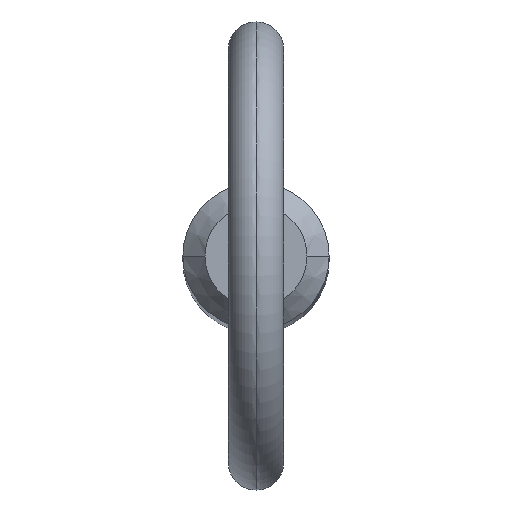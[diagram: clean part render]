
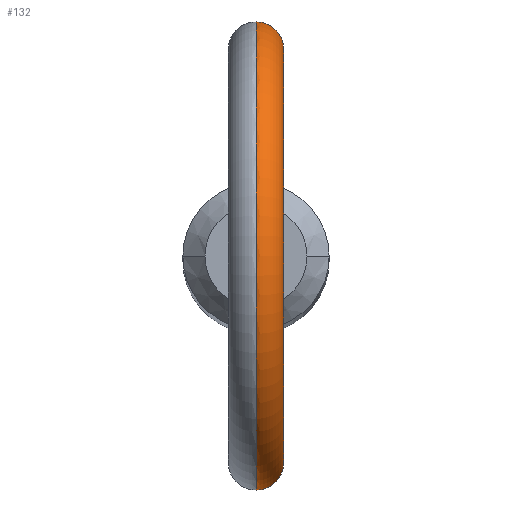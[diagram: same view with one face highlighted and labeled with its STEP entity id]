
A CAD part, top view. The second image highlights one B-rep face of the part: STEP entity #132.
In plain terms, the highlighted toroidal (fillet/blend) face has major radius 11.2 mm and minor radius 1.5 mm.
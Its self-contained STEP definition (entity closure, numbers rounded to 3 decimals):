
#8 = CARTESIAN_POINT ( 'NONE',  ( 0.782, -3.888, 122.737 ) ) ;
#22 = CARTESIAN_POINT ( 'NONE',  ( 0.691, 3.905, 122.689 ) ) ;
#26 = CARTESIAN_POINT ( 'NONE',  ( 1.499, 3.671, 123.894 ) ) ;
#27 = CARTESIAN_POINT ( 'NONE',  ( 0.769, 3.894, 125.501 ) ) ;
#28 = DIRECTION ( 'NONE',  ( 0., 0., -1. ) ) ;
#60 = CIRCLE ( 'NONE', #67, 12.7 ) ;
#64 = CARTESIAN_POINT ( 'NONE',  ( 1.236, 3.77, 123.129 ) ) ;
#65 = CARTESIAN_POINT ( 'NONE',  ( 1.488, 3.675, 124.305 ) ) ;
#67 = AXIS2_PLACEMENT_3D ( 'NONE', #449, #184, #267 ) ;
#68 = CARTESIAN_POINT ( 'NONE',  ( 0.206, 3.965, 125.747 ) ) ;
#84 = CARTESIAN_POINT ( 'NONE',  ( 0.77, -3.894, 125.5 ) ) ;
#85 = AXIS2_PLACEMENT_3D ( 'NONE', #229, #390, #225 ) ;
#87 = CARTESIAN_POINT ( 'NONE',  ( 0.205, -3.965, 122.535 ) ) ;
#89 = ORIENTED_EDGE ( 'NONE', *, *, #98, .T. ) ;
#94 = AXIS2_PLACEMENT_3D ( 'NONE', #422, #263, #28 ) ;
#98 = EDGE_CURVE ( 'NONE', #221, #357, #60, .T. ) ;
#103 = B_SPLINE_CURVE_WITH_KNOTS ( 'NONE', 3,
 ( #180, #500, #499, #22, #420, #299, #377, #64, #455, #335, #143, #26, #339, #65, #338, #105, #222, #264, #27, #301, #68, #462 ),
 .UNSPECIFIED., .F., .F.,
 ( 4, 2, 2, 2, 2, 2, 2, 2, 2, 2, 4 ),
 ( 0.001, 0.001, 0.002, 0.002, 0.003, 0.003, 0.003, 0.004, 0.004, 0.005, 0.006 ),
 .UNSPECIFIED. ) ;
#105 = CARTESIAN_POINT ( 'NONE',  ( 1.291, 3.75, 124.884 ) ) ;
#118 = CARTESIAN_POINT ( 'NONE',  ( 1.503, -3.669, 123.999 ) ) ;
#119 = CARTESIAN_POINT ( 'NONE',  ( 0.498, -3.935, 125.644 ) ) ;
#132 = ADVANCED_FACE ( 'NONE', ( #139 ), #259, .T. ) ;
#139 = FACE_OUTER_BOUND ( 'NONE', #336, .T. ) ;
#143 = CARTESIAN_POINT ( 'NONE',  ( 1.47, 3.682, 123.692 ) ) ;
#159 = CARTESIAN_POINT ( 'NONE',  ( 0.102, -3.965, 125.747 ) ) ;
#180 = CARTESIAN_POINT ( 'NONE',  ( 0., 3.965, 122.535 ) ) ;
#184 = DIRECTION ( 'NONE',  ( 1., 0., 0. ) ) ;
#190 = VERTEX_POINT ( 'NONE', #303 ) ;
#196 = CARTESIAN_POINT ( 'NONE',  ( 0.925, -3.858, 125.368 ) ) ;
#199 = CARTESIAN_POINT ( 'NONE',  ( 1.499, -3.671, 123.897 ) ) ;
#200 = CARTESIAN_POINT ( 'NONE',  ( 0.949, -3.851, 122.849 ) ) ;
#220 = CARTESIAN_POINT ( 'NONE',  ( 0., 3.965, 122.535 ) ) ;
#221 = VERTEX_POINT ( 'NONE', #220 ) ;
#222 = CARTESIAN_POINT ( 'NONE',  ( 1.185, 3.786, 125.06 ) ) ;
#225 = DIRECTION ( 'NONE',  ( 0., 0., -1. ) ) ;
#229 = CARTESIAN_POINT ( 'NONE',  ( 0., 0., 134.6 ) ) ;
#237 = CARTESIAN_POINT ( 'NONE',  ( 1.479, -3.679, 124.307 ) ) ;
#238 = CARTESIAN_POINT ( 'NONE',  ( 0.205, -3.961, 125.734 ) ) ;
#241 = CARTESIAN_POINT ( 'NONE',  ( 1.237, -3.77, 123.131 ) ) ;
#244 = EDGE_CURVE ( 'NONE', #221, #190, #103, .T. ) ;
#259 = TOROIDAL_SURFACE ( 'NONE', #94, 11.2, 1.5 ) ;
#263 = DIRECTION ( 'NONE',  ( 1., 0., 0. ) ) ;
#264 = CARTESIAN_POINT ( 'NONE',  ( 0.927, 3.858, 125.367 ) ) ;
#266 = CIRCLE ( 'NONE', #85, 9.7 ) ;
#267 = DIRECTION ( 'NONE',  ( 0., 0., -1. ) ) ;
#271 = ORIENTED_EDGE ( 'NONE', *, *, #244, .F. ) ;
#276 = CARTESIAN_POINT ( 'NONE',  ( 1.447, -3.692, 123.593 ) ) ;
#278 = CARTESIAN_POINT ( 'NONE',  ( 1.028, -3.83, 122.915 ) ) ;
#279 = CARTESIAN_POINT ( 'NONE',  ( 0.693, -3.905, 122.69 ) ) ;
#281 = VERTEX_POINT ( 'NONE', #507 ) ;
#296 = EDGE_CURVE ( 'NONE', #190, #281, #266, .T. ) ;
#299 = CARTESIAN_POINT ( 'NONE',  ( 0.949, 3.851, 122.849 ) ) ;
#301 = CARTESIAN_POINT ( 'NONE',  ( 0.411, 3.948, 125.691 ) ) ;
#303 = CARTESIAN_POINT ( 'NONE',  ( 0., 3.965, 125.747 ) ) ;
#312 = CARTESIAN_POINT ( 'NONE',  ( 0.404, -3.946, 125.682 ) ) ;
#313 = CARTESIAN_POINT ( 'NONE',  ( 1.186, -3.786, 125.059 ) ) ;
#315 = CARTESIAN_POINT ( 'NONE',  ( 0.409, -3.948, 122.574 ) ) ;
#335 = CARTESIAN_POINT ( 'NONE',  ( 1.447, 3.692, 123.593 ) ) ;
#336 = EDGE_LOOP ( 'NONE', ( #271, #89, #453, #363 ) ) ;
#338 = CARTESIAN_POINT ( 'NONE',  ( 1.441, 3.695, 124.508 ) ) ;
#339 = CARTESIAN_POINT ( 'NONE',  ( 1.503, 3.669, 123.998 ) ) ;
#357 = VERTEX_POINT ( 'NONE', #463 ) ;
#358 = CARTESIAN_POINT ( 'NONE',  ( 1.493, -3.673, 124.204 ) ) ;
#360 = CARTESIAN_POINT ( 'NONE',  ( 1.471, -3.682, 123.694 ) ) ;
#363 = ORIENTED_EDGE ( 'NONE', *, *, #296, .F. ) ;
#377 = CARTESIAN_POINT ( 'NONE',  ( 1.026, 3.831, 122.913 ) ) ;
#390 = DIRECTION ( 'NONE',  ( 1., 0., 0. ) ) ;
#398 = CARTESIAN_POINT ( 'NONE',  ( 1.404, -3.708, 124.601 ) ) ;
#420 = CARTESIAN_POINT ( 'NONE',  ( 0.782, 3.888, 122.737 ) ) ;
#422 = CARTESIAN_POINT ( 'NONE',  ( 0., 0., 134.6 ) ) ;
#428 = EDGE_CURVE ( 'NONE', #281, #357, #450, .T. ) ;
#431 = CARTESIAN_POINT ( 'NONE',  ( 0., -3.965, 125.747 ) ) ;
#434 = CARTESIAN_POINT ( 'NONE',  ( 1.291, -3.75, 124.883 ) ) ;
#441 = CARTESIAN_POINT ( 'NONE',  ( 0., -3.965, 122.535 ) ) ;
#449 = CARTESIAN_POINT ( 'NONE',  ( 0., 0., 134.6 ) ) ;
#450 = B_SPLINE_CURVE_WITH_KNOTS ( 'NONE', 3,
 ( #431, #159, #238, #312, #119, #84, #196, #313, #434, #398, #470, #237, #358, #118, #199, #360, #276, #476, #241, #278, #200, #8, #279, #315, #87, #441 ),
 .UNSPECIFIED., .F., .F.,
 ( 4, 2, 2, 2, 2, 2, 2, 2, 2, 2, 2, 2, 4 ),
 ( 0.004, 0.005, 0.005, 0.005, 0.006, 0.006, 0.007, 0.007, 0.007, 0.008, 0.008, 0.008, 0.009 ),
 .UNSPECIFIED. ) ;
#453 = ORIENTED_EDGE ( 'NONE', *, *, #428, .F. ) ;
#455 = CARTESIAN_POINT ( 'NONE',  ( 1.344, 3.731, 123.303 ) ) ;
#462 = CARTESIAN_POINT ( 'NONE',  ( 0., 3.965, 125.747 ) ) ;
#463 = CARTESIAN_POINT ( 'NONE',  ( 0., -3.965, 122.535 ) ) ;
#470 = CARTESIAN_POINT ( 'NONE',  ( 1.434, -3.697, 124.505 ) ) ;
#476 = CARTESIAN_POINT ( 'NONE',  ( 1.346, -3.73, 123.308 ) ) ;
#499 = CARTESIAN_POINT ( 'NONE',  ( 0.41, 3.948, 122.574 ) ) ;
#500 = CARTESIAN_POINT ( 'NONE',  ( 0.204, 3.965, 122.535 ) ) ;
#507 = CARTESIAN_POINT ( 'NONE',  ( 0., -3.965, 125.747 ) ) ;
